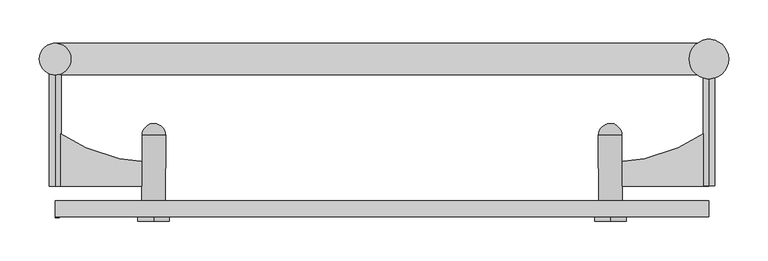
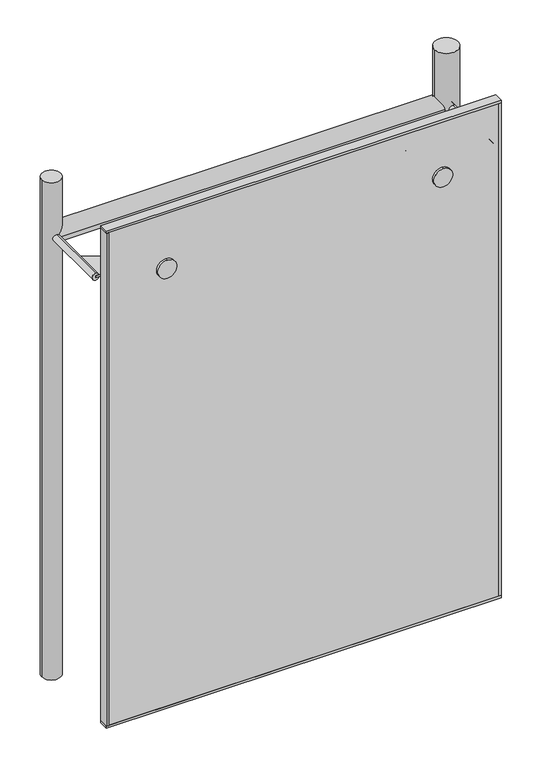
"""IFC4 building model written with IfcOpenShell, lengths in millimetres: plate geometry, FLATNING_TRYOUT : FLATNING_TRYOUT."""

from ifc_helpers import new_model, si_unit, point, frame, frame_2d, origin, origin_with_axes, place, context, project, spatial, polyline, circle_curve, ellipse_curve, trimmed, segment, composite_curve, outline, extrude, source, transform, mapped, element, save
from ifc_brep_helpers import plane_surface, cylinder_surface, revolved_surface, advanced_brep


def plate_6218623b(model_context):
    return source(origin(), model_context, "Body", "SolidModel", [
        extrude(outline(composite_curve([segment(polyline([(-289.9691142, 38.1197189), (-414.9674566, 38.7634689), (-414.6069566, 108.7625406)]), True, "CONTINUOUS"), segment(trimmed(circle_curve(frame_2d((-284.4323101, 296.5502979)), 228.4943772), [point((-414.6069566, 108.7625406))], [point((-289.8146142, 68.119321))], True, "CARTESIAN"), True, "CONTINUOUS"), segment(polyline([(-289.8146142, 68.119321), (-289.9691142, 38.1197189)]), True, "CONTINUOUS")], self_intersect=False)), frame((0.0, 0.0, 977.5), z_axis=(0.0, 0.0, 1.0), x_axis=(1.0, 0.0, 0.0)), (0.0, 0.0, 1.0), 5.0),
        advanced_brep(
        [(-290.1751142, -1.8797507, 980.0), (-285.1751805, -1.9055007, 980.0), (-295.1750479, -1.8540007, 980.0), (-275.0723131, 18.0427341, 980.0), (-274.6345631, 103.0416069, 980.0), (-304.6341653, 103.1961069, 980.0), (-305.0719153, 18.1972341, 980.0), (-285.0721805, 18.0942341, 980.0), (-295.0720479, 18.1457341, 980.0), (-289.5571142, 118.1186579, 980.0)],
        [
            (0, 1),
            (1, 2, circle_curve(frame((-290.1751142, -1.8797507, 980.0), z_axis=(-0.0051500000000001, -0.9999867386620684, 0.0), x_axis=(-0.9999867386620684, 0.0051500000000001, 0.0)), 5.0)),
            (2, 0),
            (2, 1, circle_curve(frame((-290.1751142, -1.8797507, 980.0), z_axis=(-0.0051500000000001, -0.9999867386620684, 0.0), x_axis=(-0.9999867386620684, 0.0051500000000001, 0.0)), 5.0)),
            (3, 4),
            (4, 5, circle_curve(frame((-289.6343642, 103.1188569, 980.0), z_axis=(-0.0051500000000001, -0.9999867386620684, 0.0), x_axis=(-0.9999867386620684, 0.0051500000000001, 0.0)), 15.0)),
            (5, 6),
            (6, 3, circle_curve(frame((-290.0721142, 18.1199841, 980.0), z_axis=(0.0051500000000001, 0.9999867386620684, 0.0), x_axis=(-0.9999867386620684, 0.0051500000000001, 0.0)), 15.0)),
            (5, 4, circle_curve(frame((-289.6343642, 103.1188569, 980.0), z_axis=(-0.0051500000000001, -0.9999867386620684, 0.0), x_axis=(-0.9999867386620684, 0.0051500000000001, 0.0)), 15.0)),
            (3, 6, circle_curve(frame((-290.0721142, 18.1199841, 980.0), z_axis=(0.0051500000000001, 0.9999867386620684, 0.0), x_axis=(-0.9999867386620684, 0.0051500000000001, 0.0)), 15.0)),
            (7, 3),
            (6, 8),
            (8, 7, circle_curve(frame((-290.0721142, 18.1199841, 980.0), z_axis=(0.0051500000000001, 0.9999867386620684, 0.0), x_axis=(-0.9999867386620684, 0.0051500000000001, 0.0)), 5.0)),
            (7, 8, circle_curve(frame((-290.0721142, 18.1199841, 980.0), z_axis=(0.0051500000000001, 0.9999867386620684, 0.0), x_axis=(-0.9999867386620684, 0.0051500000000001, 0.0)), 5.0)),
            (1, 7),
            (8, 2),
            (4, 9, circle_curve(frame((-289.6343642, 103.1188569, 980.0), z_axis=(0.0, 0.0, 1.0), x_axis=(0.9999867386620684, -0.0051500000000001, 0.0)), 15.0)),
            (9, 5, circle_curve(frame((-289.6343642, 103.1188569, 980.0), z_axis=(0.0, 0.0, 1.0), x_axis=(-0.9999867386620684, 0.0051500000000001, 0.0)), 15.0)),
        ],
        [
            plane_surface(frame((-290.1751142, -1.8797507, 980.0), z_axis=(-0.0051500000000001, -0.9999867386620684, 0.0), x_axis=(-0.9999867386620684, 0.0051500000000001, 0.0))),
            cylinder_surface(frame((-291.4883642, -256.8763691, 980.0), z_axis=(-0.0051500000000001, -0.9999867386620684, 0.0), x_axis=(-0.9999867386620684, 0.0051500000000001, 0.0)), 15.0),
            plane_surface(frame((-290.0721142, 18.1199841, 980.0), z_axis=(-0.0051500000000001, -0.9999867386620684, 0.0), x_axis=(-0.9999867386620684, 0.0051500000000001, 0.0))),
            cylinder_surface(frame((-291.4883642, -256.8763691, 980.0), z_axis=(-0.0051500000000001, -0.9999867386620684, 0.0), x_axis=(-0.9999867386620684, 0.0051500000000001, 0.0)), 5.0),
            revolved_surface(trimmed(ellipse_curve(frame((-289.6343642, 103.1188569, 980.0), z_axis=(0.0, 0.0, 1.0), x_axis=(-0.9999867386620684, 0.0051500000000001, 0.0)), 15.0, 15.0), [point((-289.5571142, 118.1186579, 980.0))], [point((-304.6341653, 103.1961069, 980.0))], True, "CARTESIAN"), (-291.4883642, -256.8763691, 980.0), (-0.0051500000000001, -0.9999867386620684, 0.0)),
        ],
        [
            (0, [[1, 2, 3]]),
            (0, [[-3, 4, -1]]),
            (1, [[5, 6, 7, 8]]),
            (1, [[-7, 9, -5, 10]]),
            (2, [[11, -8, 12, 13]]),
            (2, [[-12, -10, -11, 14]]),
            (3, [[15, -13, 16, -2]]),
            (3, [[-16, -14, -15, -4]]),
            (4, [[17, 18, -6]]),
            (4, [[-18, -17, -9]]),
        ],
    ),
        extrude(outline(composite_curve([segment(polyline([(289.9691142, 38.1197189), (289.8146142, 68.119321)]), True, "CONTINUOUS"), segment(trimmed(circle_curve(frame_2d((284.4323101, 296.5502979)), 228.4943772), [point((289.8146142, 68.119321))], [point((414.6069566, 108.7625406))], True, "CARTESIAN"), True, "CONTINUOUS"), segment(polyline([(414.6069566, 108.7625406), (414.9674566, 38.7634689), (289.9691142, 38.1197189)]), True, "CONTINUOUS")], self_intersect=False)), frame((0.0, 0.0, 977.5), z_axis=(0.0, 0.0, 1.0), x_axis=(1.0, 0.0, 0.0)), (0.0, 0.0, 1.0), 5.0),
        advanced_brep(
        [(290.1751142, -1.8797507, 980.0), (285.1751805, -1.9055007, 980.0), (295.1750479, -1.8540007, 980.0), (275.0723131, 18.0427341, 980.0), (274.6345631, 103.0416069, 980.0), (304.6341653, 103.1961069, 980.0), (305.0719153, 18.1972341, 980.0), (285.0721805, 18.0942341, 980.0), (295.0720479, 18.1457341, 980.0), (289.5571142, 118.1186579, 980.0)],
        [
            (0, 1),
            (1, 2, circle_curve(frame((290.1751142, -1.8797507, 980.0), z_axis=(0.005149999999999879, -0.9999867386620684, 0.0), x_axis=(0.9999867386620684, 0.005149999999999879, 0.0)), 5.0)),
            (2, 0),
            (2, 1, circle_curve(frame((290.1751142, -1.8797507, 980.0), z_axis=(0.005149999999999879, -0.9999867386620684, 0.0), x_axis=(0.9999867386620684, 0.005149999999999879, 0.0)), 5.0)),
            (3, 4),
            (4, 5, circle_curve(frame((289.6343642, 103.1188569, 980.0), z_axis=(0.005149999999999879, -0.9999867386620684, 0.0), x_axis=(0.9999867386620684, 0.005149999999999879, 0.0)), 15.0)),
            (5, 6),
            (6, 3, circle_curve(frame((290.0721142, 18.1199841, 980.0), z_axis=(-0.005149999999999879, 0.9999867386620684, 0.0), x_axis=(0.9999867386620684, 0.005149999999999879, 0.0)), 15.0)),
            (5, 4, circle_curve(frame((289.6343642, 103.1188569, 980.0), z_axis=(0.005149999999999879, -0.9999867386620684, 0.0), x_axis=(0.9999867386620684, 0.005149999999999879, 0.0)), 15.0)),
            (3, 6, circle_curve(frame((290.0721142, 18.1199841, 980.0), z_axis=(-0.005149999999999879, 0.9999867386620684, 0.0), x_axis=(0.9999867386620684, 0.005149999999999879, 0.0)), 15.0)),
            (7, 3),
            (6, 8),
            (8, 7, circle_curve(frame((290.0721142, 18.1199841, 980.0), z_axis=(-0.005149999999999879, 0.9999867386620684, 0.0), x_axis=(0.9999867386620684, 0.005149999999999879, 0.0)), 5.0)),
            (7, 8, circle_curve(frame((290.0721142, 18.1199841, 980.0), z_axis=(-0.005149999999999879, 0.9999867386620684, 0.0), x_axis=(0.9999867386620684, 0.005149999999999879, 0.0)), 5.0)),
            (1, 7),
            (8, 2),
            (4, 9, circle_curve(frame((289.6343642, 103.1188569, 980.0), z_axis=(0.0, 0.0, -1.0), x_axis=(-0.9999867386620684, -0.005149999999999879, 0.0)), 15.0)),
            (9, 5, circle_curve(frame((289.6343642, 103.1188569, 980.0), z_axis=(0.0, 0.0, -1.0), x_axis=(0.9999867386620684, 0.005149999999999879, 0.0)), 15.0)),
        ],
        [
            plane_surface(frame((290.1751142, -1.8797507, 980.0), z_axis=(0.005149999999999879, -0.9999867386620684, 0.0), x_axis=(0.9999867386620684, 0.005149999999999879, 0.0))),
            cylinder_surface(frame((291.4883642, -256.8763691, 980.0), z_axis=(0.005149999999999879, -0.9999867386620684, 0.0), x_axis=(0.9999867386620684, 0.005149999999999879, 0.0)), 15.0),
            plane_surface(frame((290.0721142, 18.1199841, 980.0), z_axis=(0.005149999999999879, -0.9999867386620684, 0.0), x_axis=(0.9999867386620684, 0.005149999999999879, 0.0))),
            cylinder_surface(frame((291.4883642, -256.8763691, 980.0), z_axis=(0.005149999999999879, -0.9999867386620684, 0.0), x_axis=(0.9999867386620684, 0.005149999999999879, 0.0)), 5.0),
            revolved_surface(trimmed(ellipse_curve(frame((289.6343642, 103.1188569, 980.0), z_axis=(0.0, 0.0, -1.0), x_axis=(0.9999867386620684, 0.005149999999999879, 0.0)), 15.0, 15.0), [point((289.5571142, 118.1186579, 980.0))], [point((304.6341653, 103.1961069, 980.0))], True, "CARTESIAN"), (291.4883642, -256.8763691, 980.0), (0.005149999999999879, -0.9999867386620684, 0.0)),
        ],
        [
            (0, [[1, 2, 3]]),
            (0, [[-3, 4, -1]]),
            (1, [[5, 6, 7, 8]]),
            (1, [[-7, 9, -5, 10]]),
            (2, [[11, -8, 12, 13]]),
            (2, [[-12, -10, -11, 14]]),
            (3, [[15, -13, 16, -2]]),
            (3, [[-16, -14, -15, -4]]),
            (4, [[17, 18, -6]]),
            (4, [[-18, -17, -9]]),
        ],
    ),
        extrude(outline(polyline([(415.0, 20.0), (415.0, 0.0), (-415.0, 0.0), (-415.0, 20.0), (415.0, 20.0)])), origin_with_axes(), (0.0, 0.0, 1.0), 5.0),
        extrude(outline(polyline([(415.0, 20.0), (415.0, 0.0), (-415.0, 0.0), (-415.0, 20.0), (415.0, 20.0)])), frame((0.0, 0.0, 1100.0), z_axis=(0.0, 0.0, 1.0), x_axis=(1.0, 0.0, 0.0)), (0.0, 0.0, 1.0), 5.0),
        extrude(outline(polyline([(410.0, -0.0781286), (410.0, 20.0), (415.0, 20.0), (415.0, -0.0781286), (410.0, -0.0781286)])), frame((0.0, 0.0, 5.0), z_axis=(0.0, 0.0, 1.0), x_axis=(1.0, 0.0, 0.0)), (0.0, 0.0, 1.0), 1095.0),
        extrude(outline(polyline([(-410.0, -1.236894), (-415.0000002, -1.236894), (-415.0000002, 20.0), (-410.0, 20.0), (-410.0, -1.236894)])), frame((0.0, 0.0, 5.0), z_axis=(0.0, 0.0, 1.0), x_axis=(1.0, 0.0, 0.0)), (0.0, 0.0, 1.0), 1095.0),
        extrude(outline(polyline([(410.0, 20.0), (410.0, 0.0), (-410.0, 0.0), (-410.0, 20.0), (410.0, 20.0)])), frame((0.0, 0.0, 5.0), z_axis=(0.0, 0.0, 1.0), x_axis=(1.0, 0.0, 0.0)), (0.0, 0.0, 1.0), 1095.0),
        extrude(outline(composite_curve([segment(trimmed(circle_curve(frame_2d((0.0, 20.0)), 20.0), [point((0.0, 40.0))], [point((0.0, 0.0))], False, "CARTESIAN"), True, "CONTINUOUS"), segment(trimmed(circle_curve(frame_2d((0.0, 20.0)), 20.0), [point((0.0, 0.0))], [point((0.0, 40.0))], False, "CARTESIAN"), True, "CONTINUOUS")], self_intersect=False)), frame((-290.0, -5.7218209, 1000.1579003), z_axis=(-0.005149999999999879, 0.9999867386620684, 0.0), x_axis=(0.9999867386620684, 0.005149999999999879, 0.0)), (0.0, 0.0, 1.0), 5.0),
        extrude(outline(composite_curve([segment(trimmed(circle_curve(frame_2d((0.0, 20.0)), 20.0), [point((0.0, 40.0))], [point((0.0, 0.0))], False, "CARTESIAN"), True, "CONTINUOUS"), segment(trimmed(circle_curve(frame_2d((0.0, 20.0)), 20.0), [point((0.0, 0.0))], [point((0.0, 40.0))], False, "CARTESIAN"), True, "CONTINUOUS")], self_intersect=False)), frame((290.0, -5.7218209, 1000.1579003), z_axis=(-0.005149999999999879, 0.9999867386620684, 0.0), x_axis=(0.9999867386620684, 0.005149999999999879, 0.0)), (0.0, 0.0, 1.0), 5.0),
        extrude(outline(composite_curve([segment(trimmed(circle_curve(frame_2d((200.0, 980.0)), 20.0), [point((220.0, 980.0))], [point((180.0, 980.0))], False, "CARTESIAN"), True, "CONTINUOUS"), segment(trimmed(circle_curve(frame_2d((200.0, 980.0)), 20.0), [point((180.0, 980.0))], [point((220.0, 980.0))], False, "CARTESIAN"), True, "CONTINUOUS")], self_intersect=False)), frame((-415.0, 0.0, 0.0), z_axis=(1.0, 0.0, 0.0), x_axis=(0.0, 1.0, 0.0)), (0.0, 0.0, 1.0), 830.0),
        extrude(outline(composite_curve([segment(trimmed(circle_curve(frame_2d((980.0, 415.0)), 7.5), [point((972.5, 415.0))], [point((987.5, 415.0))], False, "CARTESIAN"), True, "CONTINUOUS"), segment(trimmed(circle_curve(frame_2d((980.0, 415.0)), 7.5), [point((987.5, 415.0))], [point((972.5, 415.0))], False, "CARTESIAN"), True, "CONTINUOUS")], self_intersect=False)), frame((0.0, 39.2242369, 0.0), z_axis=(0.0, 1.0, 0.0), x_axis=(0.0, 0.0, 1.0)), (0.0, 0.0, 1.0), 160.0),
        extrude(outline(composite_curve([segment(trimmed(circle_curve(frame_2d((980.0, -415.0)), 7.5), [point((972.5, -415.0))], [point((987.5, -415.0))], False, "CARTESIAN"), True, "CONTINUOUS"), segment(trimmed(circle_curve(frame_2d((980.0, -415.0)), 7.5), [point((987.5, -415.0))], [point((972.5, -415.0))], False, "CARTESIAN"), True, "CONTINUOUS")], self_intersect=False)), frame((0.0, 38.6528093, 0.0), z_axis=(0.0, 1.0, 0.0), x_axis=(0.0, 0.0, 1.0)), (0.0, 0.0, 1.0), 160.0),
        extrude(outline(composite_curve([segment(trimmed(circle_curve(frame_2d((415.0, 200.0)), 25.0), [point((390.0, 200.0))], [point((440.0, 200.0))], False, "CARTESIAN"), True, "CONTINUOUS"), segment(trimmed(circle_curve(frame_2d((415.0, 200.0)), 25.0), [point((440.0, 200.0))], [point((390.0, 200.0))], False, "CARTESIAN"), True, "CONTINUOUS")], self_intersect=False)), origin_with_axes(), (0.0, 0.0, 1.0), 1105.0),
        extrude(outline(composite_curve([segment(trimmed(circle_curve(frame_2d((-415.0, 200.0)), 20.0), [point((-435.0, 200.0))], [point((-395.0, 200.0))], False, "CARTESIAN"), True, "CONTINUOUS"), segment(trimmed(circle_curve(frame_2d((-415.0, 200.0)), 20.0), [point((-395.0, 200.0))], [point((-435.0, 200.0))], False, "CARTESIAN"), True, "CONTINUOUS")], self_intersect=False)), origin_with_axes(), (0.0, 0.0, 1.0), 1105.0),
    ])


if __name__ == "__main__":
    model = new_model("IFC4")
    model_context = context("Model", 3, world=origin())
    ifc_project = project(units=[si_unit("LENGTHUNIT", "METRE", prefix="MILLI")], contexts=[model_context])
    site = spatial("IfcSite", under=ifc_project)
    building = spatial("IfcBuilding", under=site)
    placement = place(None, origin())
    plate_shape = plate_6218623b(model_context)
    element("IfcPlate", 1, ObjectType="FLATNING_TRYOUT : FLATNING_TRYOUT", at=placement, inside=building, context=model_context, shape_type="MappedRepresentation", body=[
        mapped(plate_shape, transform((0.0, 0.0, 0.0), x_axis=(1.0, 0.0, 0.0), y_axis=(0.0, 1.0, 0.0), z_axis=(0.0, 0.0, 1.0))),
    ])
    save(model, "model.ifc")
